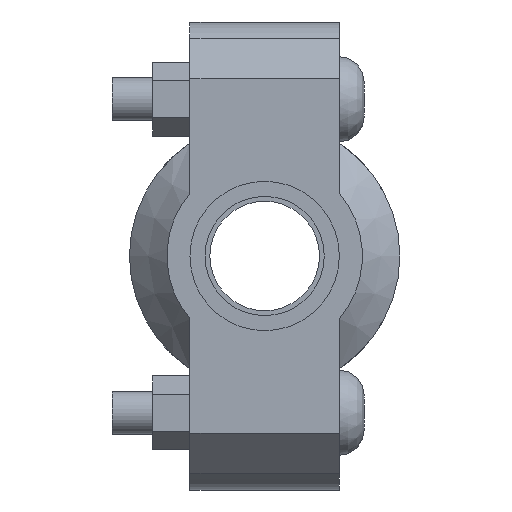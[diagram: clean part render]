
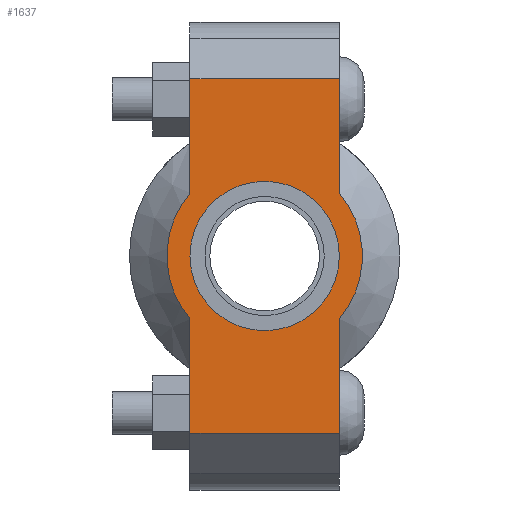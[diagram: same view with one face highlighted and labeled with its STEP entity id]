
A CAD part, left-side view. The second image highlights one B-rep face of the part: STEP entity #1637.
In plain terms, the highlighted planar face has unit normal (-1, 0, 0) as drawn and (0, 0, 1) by its records, which use the part's own axes.
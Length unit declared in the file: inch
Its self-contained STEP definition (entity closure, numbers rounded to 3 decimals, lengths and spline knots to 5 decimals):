
#192=LINE('',#2831,#289);
#207=LINE('',#2890,#304);
#215=LINE('',#2920,#312);
#217=LINE('',#2923,#314);
#218=LINE('',#2928,#315);
#219=LINE('',#2929,#316);
#289=VECTOR('',#2299,0.3937);
#304=VECTOR('',#2334,0.3937);
#312=VECTOR('',#2354,0.3937);
#314=VECTOR('',#2358,0.3937);
#315=VECTOR('',#2363,0.3937);
#316=VECTOR('',#2364,0.3937);
#380=FACE_BOUND('',#557,.T.);
#448=FACE_OUTER_BOUND('',#556,.T.);
#556=EDGE_LOOP('',(#1338,#1339,#1340,#1341,#1342,#1343,#1344,#1345));
#557=EDGE_LOOP('',(#1346));
#639=CIRCLE('',#1865,0.6575);
#663=CIRCLE('',#1917,0.86);
#664=CIRCLE('',#1918,0.86);
#735=VERTEX_POINT('',#2657);
#776=VERTEX_POINT('',#2828);
#777=VERTEX_POINT('',#2830);
#798=VERTEX_POINT('',#2885);
#799=VERTEX_POINT('',#2889);
#808=VERTEX_POINT('',#2915);
#809=VERTEX_POINT('',#2919);
#810=VERTEX_POINT('',#2925);
#811=VERTEX_POINT('',#2927);
#899=EDGE_CURVE('',#735,#735,#639,.T.);
#956=EDGE_CURVE('',#777,#776,#192,.T.);
#981=EDGE_CURVE('',#799,#798,#207,.T.);
#994=EDGE_CURVE('',#809,#808,#215,.T.);
#996=EDGE_CURVE('',#809,#776,#217,.T.);
#997=EDGE_CURVE('',#808,#810,#663,.T.);
#998=EDGE_CURVE('',#810,#811,#218,.T.);
#999=EDGE_CURVE('',#799,#811,#219,.T.);
#1000=EDGE_CURVE('',#798,#777,#664,.T.);
#1338=ORIENTED_EDGE('',*,*,#996,.F.);
#1339=ORIENTED_EDGE('',*,*,#994,.T.);
#1340=ORIENTED_EDGE('',*,*,#997,.T.);
#1341=ORIENTED_EDGE('',*,*,#998,.T.);
#1342=ORIENTED_EDGE('',*,*,#999,.F.);
#1343=ORIENTED_EDGE('',*,*,#981,.T.);
#1344=ORIENTED_EDGE('',*,*,#1000,.T.);
#1345=ORIENTED_EDGE('',*,*,#956,.T.);
#1346=ORIENTED_EDGE('',*,*,#899,.T.);
#1477=PLANE('',#1916);
#1637=ADVANCED_FACE('',(#448,#380),#1477,.T.);
#1865=AXIS2_PLACEMENT_3D('',#2659,#2189,#2190);
#1916=AXIS2_PLACEMENT_3D('',#2924,#2359,#2360);
#1917=AXIS2_PLACEMENT_3D('',#2926,#2361,#2362);
#1918=AXIS2_PLACEMENT_3D('',#2930,#2365,#2366);
#2189=DIRECTION('center_axis',(0.,0.,-1.));
#2190=DIRECTION('ref_axis',(-1.,0.,0.));
#2299=DIRECTION('',(-1.,0.,0.));
#2334=DIRECTION('',(-1.,0.,0.));
#2354=DIRECTION('',(1.,0.,0.));
#2358=DIRECTION('',(0.,1.,0.));
#2359=DIRECTION('center_axis',(0.,0.,1.));
#2360=DIRECTION('ref_axis',(1.,0.,0.));
#2361=DIRECTION('center_axis',(0.,0.,1.));
#2362=DIRECTION('ref_axis',(-1.,0.,0.));
#2363=DIRECTION('',(1.,0.,0.));
#2364=DIRECTION('',(0.,-1.,0.));
#2365=DIRECTION('center_axis',(0.,0.,1.));
#2366=DIRECTION('ref_axis',(-1.,0.,0.));
#2657=CARTESIAN_POINT('',(0.6575,0.,0.875));
#2659=CARTESIAN_POINT('Origin',(0.,0.,0.875));
#2828=CARTESIAN_POINT('',(-1.56,0.6575,0.875));
#2830=CARTESIAN_POINT('',(-0.55434,0.6575,0.875));
#2831=CARTESIAN_POINT('',(2.06,0.6575,0.875));
#2885=CARTESIAN_POINT('',(0.55434,0.6575,0.875));
#2889=CARTESIAN_POINT('',(1.56,0.6575,0.875));
#2890=CARTESIAN_POINT('',(2.06,0.6575,0.875));
#2915=CARTESIAN_POINT('',(-0.55434,-0.6575,0.875));
#2919=CARTESIAN_POINT('',(-1.56,-0.6575,0.875));
#2920=CARTESIAN_POINT('',(-2.06,-0.6575,0.875));
#2923=CARTESIAN_POINT('',(-1.56,0.32875,0.875));
#2924=CARTESIAN_POINT('Origin',(0.,0.,
0.875));
#2925=CARTESIAN_POINT('',(0.55434,-0.6575,0.875));
#2926=CARTESIAN_POINT('Origin',(0.,0.,0.875));
#2927=CARTESIAN_POINT('',(1.56,-0.6575,0.875));
#2928=CARTESIAN_POINT('',(-2.06,-0.6575,0.875));
#2929=CARTESIAN_POINT('',(1.56,-0.32875,0.875));
#2930=CARTESIAN_POINT('Origin',(0.,0.,0.875));
